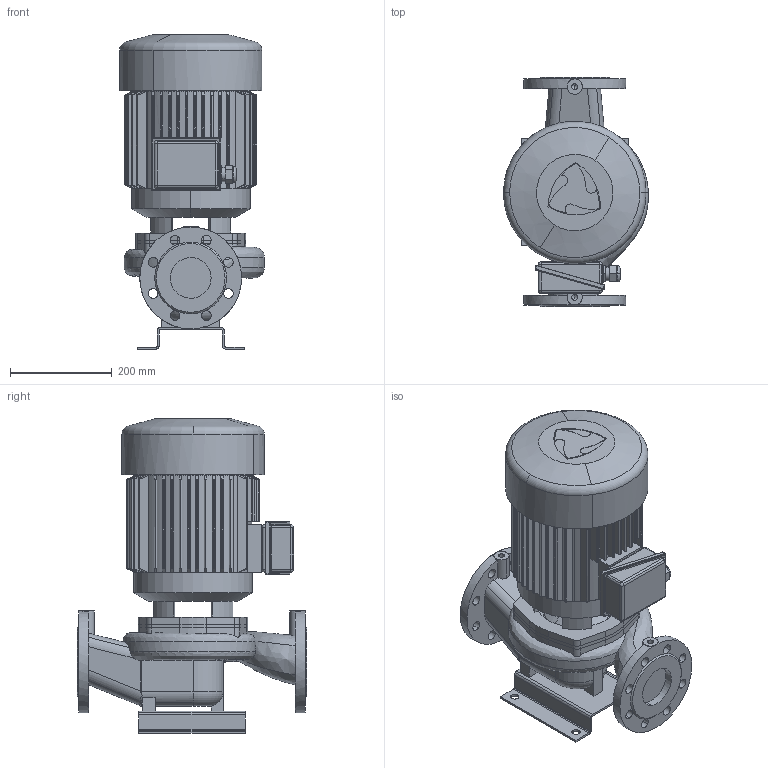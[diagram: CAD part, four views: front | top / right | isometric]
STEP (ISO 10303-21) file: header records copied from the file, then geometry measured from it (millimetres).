
FILE_DESCRIPTION(('STEP AP214'),'1');
FILE_NAME('export.stp','2018-05-28T12:15:54',(' '),(' '),'Spatial InterOp 3D',' ',' ');
FILE_SCHEMA(('AUTOMOTIVE_DESIGN { 1 0 10303 214 1 1 1 1 }'));
Length unit declared in the file: millimetre
Products named in the file (10): W_ALS10812750KP13; V_TLL65AB80A1102; V_PPAL1081; V_JALKA35973; V_MOKN132; RU_OKN_132; TSUOJA_OKN_132_133; KYTKOTELO_OKN_100_133; V_Mkp-132_F19; V_EKF19OKN132
Assembly tree (9 placements, depth 4):
  W_ALS10812750KP13
    V_TLL65AB80A1102
    V_PPAL1081
    V_JALKA35973
    V_Mkp-132_F19
      V_MOKN132
        RU_OKN_132
        TSUOJA_OKN_132_133
        KYTKOTELO_OKN_100_133
      V_EKF19OKN132
Bounding box: 285 x 450 x 617.5 mm (x, y, z)
Volume: 25955827.2 mm3; surface area: 1532316.9 mm2
Topology: 7 solids, 8 shells, 820 faces, 2163 edges, 1352 vertices
Faces by surface type: cylinder 370, plane 283, cone 94, bspline 47, torus 14, sphere 12
Entity records: 45916 total; most frequent: CARTESIAN_POINT 11918, ORIENTED_EDGE 4282, DIRECTION 3971, STYLED_ITEM 2364, PRESENTATION_STYLE_ASSIGNMENT 2364, COLOUR_RGB 2364, EDGE_CURVE 2141, AXIS2_PLACEMENT_3D 1574
